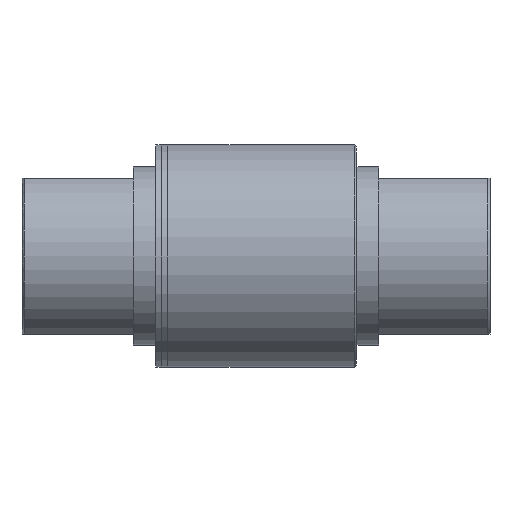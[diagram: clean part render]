
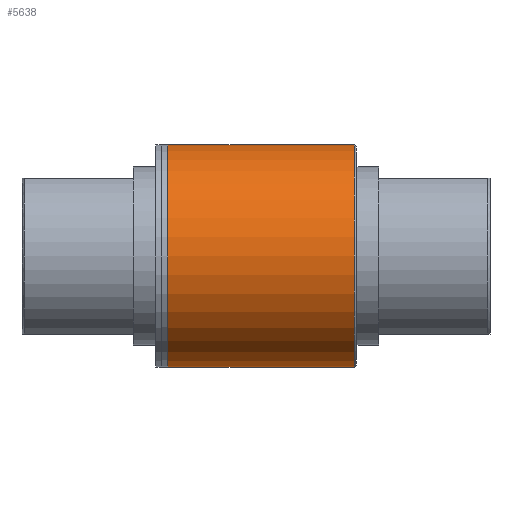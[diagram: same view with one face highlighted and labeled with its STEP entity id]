
A CAD part, left-side view. The second image highlights one B-rep face of the part: STEP entity #5638.
In plain terms, the highlighted cylindrical face has radius 10 mm (diameter 20 mm), a partial arc.
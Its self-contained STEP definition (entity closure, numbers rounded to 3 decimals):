
#493 = VERTEX_POINT ( 'NONE', #5084 ) ;
#653 = AXIS2_PLACEMENT_3D ( 'NONE', #1901, #1317, #5252 ) ;
#717 = CARTESIAN_POINT ( 'NONE',  ( 0., 7.9, 0. ) ) ;
#721 = ORIENTED_EDGE ( 'NONE', *, *, #3699, .T. ) ;
#860 = CARTESIAN_POINT ( 'NONE',  ( 0., -21., -10. ) ) ;
#934 = VECTOR ( 'NONE', #2842, 1000. ) ;
#1082 = DIRECTION ( 'NONE',  ( 0., 0., 1. ) ) ;
#1265 = AXIS2_PLACEMENT_3D ( 'NONE', #6013, #1562, #1082 ) ;
#1317 = DIRECTION ( 'NONE',  ( 0., -1., 0. ) ) ;
#1562 = DIRECTION ( 'NONE',  ( 0., 1., 0. ) ) ;
#1726 = VERTEX_POINT ( 'NONE', #6246 ) ;
#1901 = CARTESIAN_POINT ( 'NONE',  ( 0., -21., 0. ) ) ;
#2418 = ORIENTED_EDGE ( 'NONE', *, *, #3302, .T. ) ;
#2706 = DIRECTION ( 'NONE',  ( 0., -1., 0. ) ) ;
#2746 = VERTEX_POINT ( 'NONE', #4244 ) ;
#2842 = DIRECTION ( 'NONE',  ( 0., -1., 0. ) ) ;
#2917 = VECTOR ( 'NONE', #5812, 1000. ) ;
#3109 = EDGE_LOOP ( 'NONE', ( #5903, #721, #2418, #6020 ) ) ;
#3302 = EDGE_CURVE ( 'NONE', #4427, #1726, #5301, .T. ) ;
#3551 = CIRCLE ( 'NONE', #1265, 10. ) ;
#3699 = EDGE_CURVE ( 'NONE', #493, #4427, #6236, .T. ) ;
#3783 = EDGE_CURVE ( 'NONE', #493, #2746, #3834, .T. ) ;
#3834 = LINE ( 'NONE', #4323, #2917 ) ;
#3947 = AXIS2_PLACEMENT_3D ( 'NONE', #717, #2706, #4680 ) ;
#4244 = CARTESIAN_POINT ( 'NONE',  ( 0., -8.8, 10. ) ) ;
#4317 = CYLINDRICAL_SURFACE ( 'NONE', #653, 10. ) ;
#4323 = CARTESIAN_POINT ( 'NONE',  ( 0., -21., 10. ) ) ;
#4427 = VERTEX_POINT ( 'NONE', #5521 ) ;
#4680 = DIRECTION ( 'NONE',  ( 0., 0., -1. ) ) ;
#5034 = EDGE_CURVE ( 'NONE', #1726, #2746, #3551, .T. ) ;
#5084 = CARTESIAN_POINT ( 'NONE',  ( 0., 7.9, 10. ) ) ;
#5252 = DIRECTION ( 'NONE',  ( 0., 0., -1. ) ) ;
#5301 = LINE ( 'NONE', #860, #934 ) ;
#5521 = CARTESIAN_POINT ( 'NONE',  ( 0., 7.9, -10. ) ) ;
#5638 = ADVANCED_FACE ( 'NONE', ( #5771 ), #4317, .T. ) ;
#5771 = FACE_OUTER_BOUND ( 'NONE', #3109, .T. ) ;
#5812 = DIRECTION ( 'NONE',  ( 0., -1., 0. ) ) ;
#5903 = ORIENTED_EDGE ( 'NONE', *, *, #3783, .F. ) ;
#6013 = CARTESIAN_POINT ( 'NONE',  ( 0., -8.8, 0. ) ) ;
#6020 = ORIENTED_EDGE ( 'NONE', *, *, #5034, .T. ) ;
#6236 = CIRCLE ( 'NONE', #3947, 10. ) ;
#6246 = CARTESIAN_POINT ( 'NONE',  ( 0., -8.8, -10. ) ) ;
